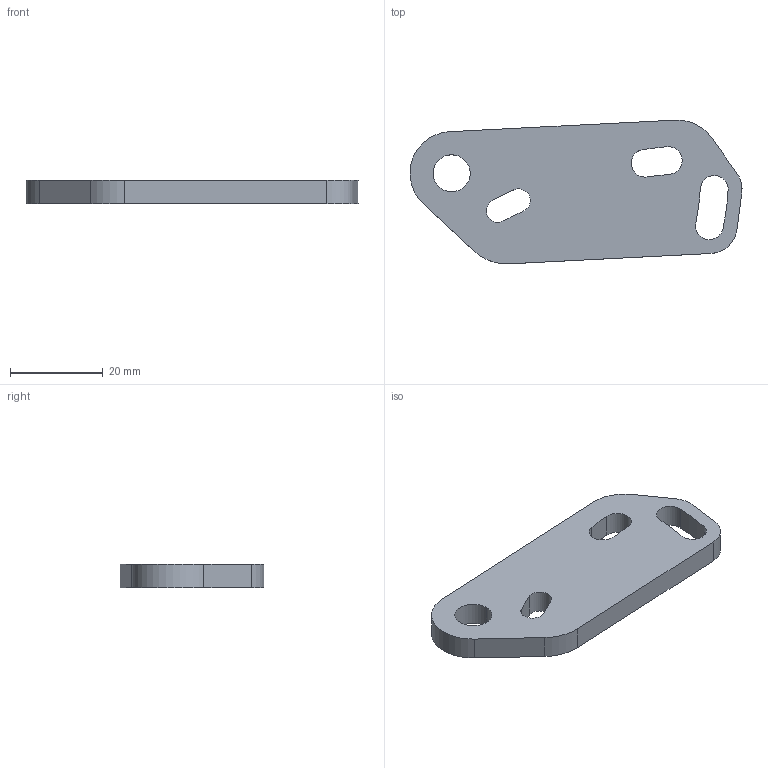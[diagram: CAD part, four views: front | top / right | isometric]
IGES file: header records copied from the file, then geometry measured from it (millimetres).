
Start section: START RECORD GO HERE.
Global section: file name: VR_Support_plate_opposite_v2.igs; native system: IBM CATIA IGES - CATIA Version 5 Release 19 ; preprocessor: CATIA Version 5 Release 19 ; author: Administrateur; organization: PC_MATHIEU; date: 20130515.222017; units: millimetre
Bounding box: 71.69 x 31.04 x 5 mm (x, y, z)
Surface area: 4684.4 mm2 (no closed solid volume)
Topology: 0 solids, 0 shells, 26 faces, 144 edges, 144 vertices
Faces by surface type: revolution 19, plane 7
